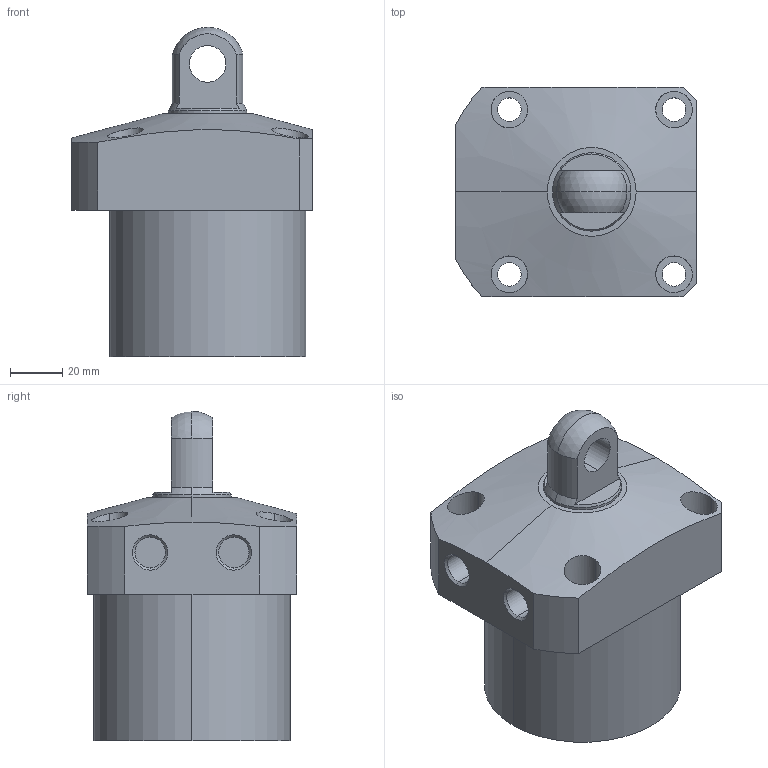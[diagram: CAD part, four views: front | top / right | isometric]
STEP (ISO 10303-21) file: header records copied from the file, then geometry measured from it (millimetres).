
FILE_DESCRIPTION (( 'STEP AP203' ), '1' );
FILE_NAME ('CLL-075CP-40.STEP', '2019-12-20T08:27:33', ( '' ), ( '' ), 'SwSTEP 2.0', 'SolidWorks 2015', '' );
FILE_SCHEMA (( 'CONFIG_CONTROL_DESIGN' ));
Length unit declared in the file: millimetre
Products named in the file (1): CLL-075CP-40
Bounding box: 92 x 80 x 126 mm (x, y, z)
Volume: 476870.2 mm3; surface area: 44464.3 mm2
Topology: 1 solids, 1 shells, 66 faces, 155 edges, 101 vertices
Faces by surface type: cylinder 35, plane 21, cone 8, sphere 2
Entity records: 2408 total; most frequent: CARTESIAN_POINT 755, DIRECTION 345, ORIENTED_EDGE 310, EDGE_CURVE 155, AXIS2_PLACEMENT_3D 143, VERTEX_POINT 101, EDGE_LOOP 86, CIRCLE 76
